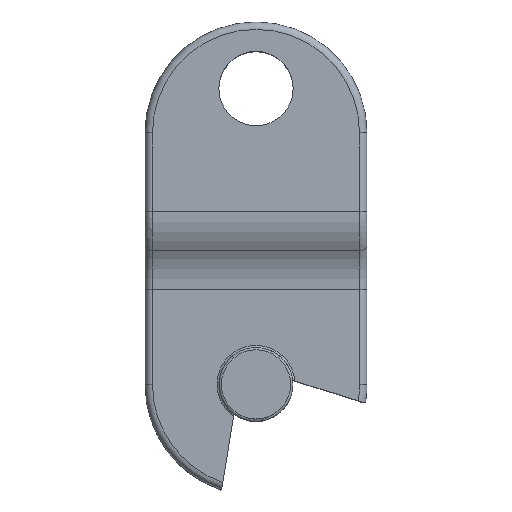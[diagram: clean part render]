
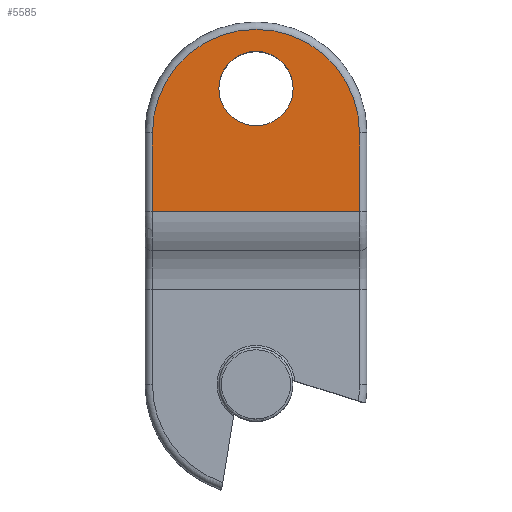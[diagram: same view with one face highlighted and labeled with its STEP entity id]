
A CAD part, top view. The second image highlights one B-rep face of the part: STEP entity #5585.
In plain terms, the highlighted planar face has unit normal (0, 0, 1).
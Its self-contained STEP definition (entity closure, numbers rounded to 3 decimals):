
#648=CARTESIAN_POINT('',(-14.0,12.484,6.));
#649=VERTEX_POINT('',#648);
#5303=CARTESIAN_POINT('',(14.,12.484,6.));
#5304=VERTEX_POINT('',#5303);
#5354=CARTESIAN_POINT('',(14.,23.09,6.));
#5355=VERTEX_POINT('',#5354);
#5363=CARTESIAN_POINT('',(14.,23.09,6.));
#5364=DIRECTION('',(0.0,-1.0,0.0));
#5365=VECTOR('',#5364,10.606);
#5366=LINE('',#5363,#5365);
#5367=EDGE_CURVE('',#5355,#5304,#5366,.T.);
#5397=CARTESIAN_POINT('',(-14.,23.09,6.));
#5398=VERTEX_POINT('',#5397);
#5406=CARTESIAN_POINT('',(0.,23.09,6.));
#5407=DIRECTION('',(0.0,0.0,-1.0));
#5408=DIRECTION('',(0.0,1.0,0.0));
#5409=AXIS2_PLACEMENT_3D('',#5406,#5407,#5408);
#5410=CIRCLE('',#5409,14.0);
#5411=EDGE_CURVE('',#5398,#5355,#5410,.T.);
#5430=CARTESIAN_POINT('',(-14.0,12.484,6.));
#5431=DIRECTION('',(0.0,1.0,0.0));
#5432=VECTOR('',#5431,10.606);
#5433=LINE('',#5430,#5432);
#5434=EDGE_CURVE('',#649,#5398,#5433,.T.);
#5558=CARTESIAN_POINT('',(7.5,23.59,6.));
#5559=DIRECTION('',(0.0,0.0,1.0));
#5560=DIRECTION('',(1.0,0.0,0.0));
#5561=AXIS2_PLACEMENT_3D('',#5558,#5559,#5560);
#5562=PLANE('',#5561);
#5563=ORIENTED_EDGE('',*,*,#5434,.F.);
#5564=CARTESIAN_POINT('',(14.,12.484,6.));
#5565=DIRECTION('',(-1.0,0.0,0.0));
#5566=VECTOR('',#5565,28.);
#5567=LINE('',#5564,#5566);
#5568=EDGE_CURVE('',#5304,#649,#5567,.T.);
#5569=ORIENTED_EDGE('',*,*,#5568,.F.);
#5570=ORIENTED_EDGE('',*,*,#5367,.F.);
#5571=ORIENTED_EDGE('',*,*,#5411,.F.);
#5572=EDGE_LOOP('',(#5563,#5569,#5570,#5571));
#5573=FACE_OUTER_BOUND('',#5572,.T.);
#5574=CARTESIAN_POINT('',(5.025,29.09,6.));
#5575=VERTEX_POINT('',#5574);
#5576=CARTESIAN_POINT('',(0.,29.09,6.));
#5577=DIRECTION('',(0.0,0.0,-1.0));
#5578=DIRECTION('',(-1.0,0.0,0.0));
#5579=AXIS2_PLACEMENT_3D('',#5576,#5577,#5578);
#5580=CIRCLE('',#5579,5.025);
#5581=EDGE_CURVE('',#5575,#5575,#5580,.T.);
#5582=ORIENTED_EDGE('',*,*,#5581,.T.);
#5583=EDGE_LOOP('',(#5582));
#5584=FACE_BOUND('',#5583,.T.);
#5585=ADVANCED_FACE('',(#5573,#5584),#5562,.T.);
